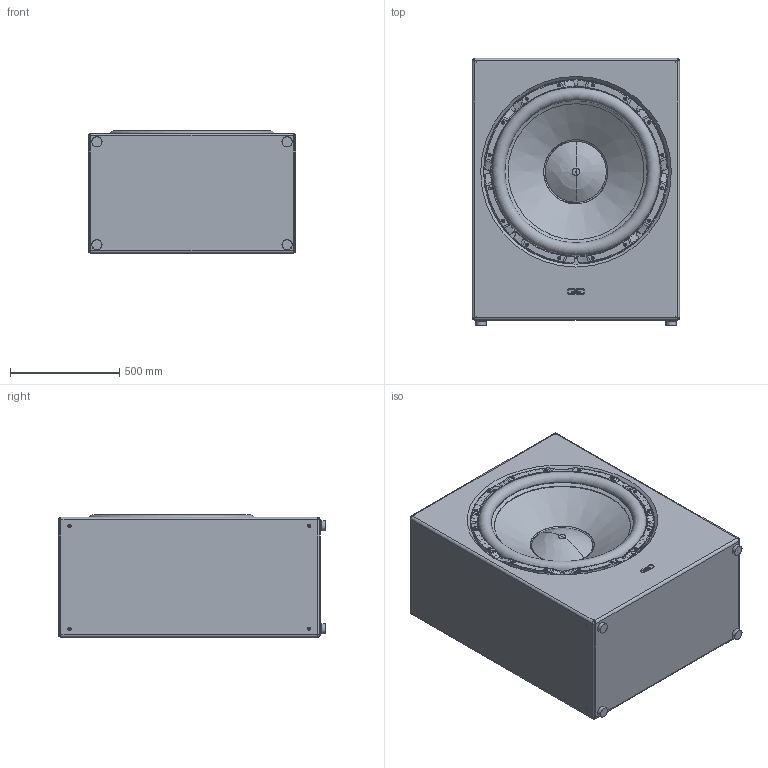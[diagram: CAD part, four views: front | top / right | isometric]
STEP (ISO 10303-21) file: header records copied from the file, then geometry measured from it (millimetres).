
FILE_DESCRIPTION(/* description */ (''),/* implementation_level */ '2;1');
FILE_NAME(/* name */ '3D Drawings THE32_SUB_PRO_PS.step',/* time_stamp */ '2026-01-29T15:33:53+01:00',/* author */ (''),/* organization */ (''),/* preprocessor_version */ 'ST-DEVELOPER v20.1',/* originating_system */ 'Autodesk Translation Framework v14.21.0.0',/* authorisation */ '');
FILE_SCHEMA (('AUTOMOTIVE_DESIGN { 1 0 10303 214 3 1 1 }'));
Products named in the file (3): The32 SUB PRO PASSIVE SEALED; COMBINE_FullSpeaker_withNamePlate; Feet
Assembly tree (2 placements, depth 2):
  The32 SUB PRO PASSIVE SEALED
    COMBINE_FullSpeaker_withNamePlate
    Feet
Bounding box: 950 x 1225 x 561.7 mm (x, y, z)
Volume: 589097664.4 mm3; surface area: 5449116.2 mm2
Topology: 121 solids, 121 shells, 3134 faces, 7850 edges, 5127 vertices
Faces by surface type: plane 1630, cylinder 831, bspline 456, cone 108, torus 83, sphere 26
Full cylindrical faces by diameter (mm): 3 x6, 4 x12, 4.5 x6, 5 x1, 5.5 x6, 6 x8, 6.701 x8, 8 x24, 8.099 x8, 8.2 x8, 12.4 x12, 12.5 x12, 13 x16, 14 x24, 14.9 x1, 17.6 x1, 21 x1, 23.6 x2, 24 x1, 24.25 x1, 25.9 x1, 26.5 x1, 47 x4, 623.36 x1, 652 x1, 772 x1, 774.6 x1
Entity records: 105000 total; most frequent: CARTESIAN_POINT 30409, ORIENTED_EDGE 15678, DIRECTION 14756, EDGE_CURVE 7839, VERTEX_POINT 5128, AXIS2_PLACEMENT_3D 5093, LINE 4570, VECTOR 4570
